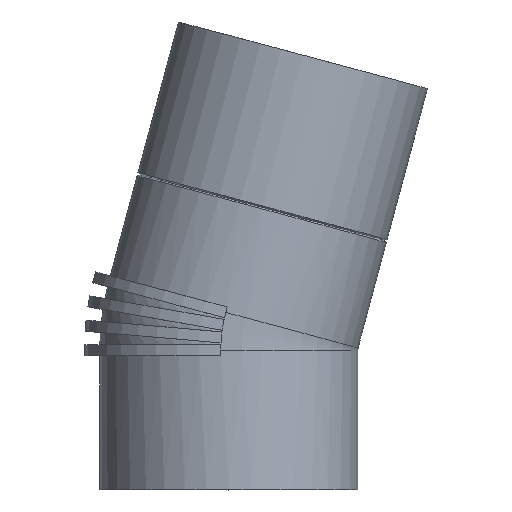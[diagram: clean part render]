
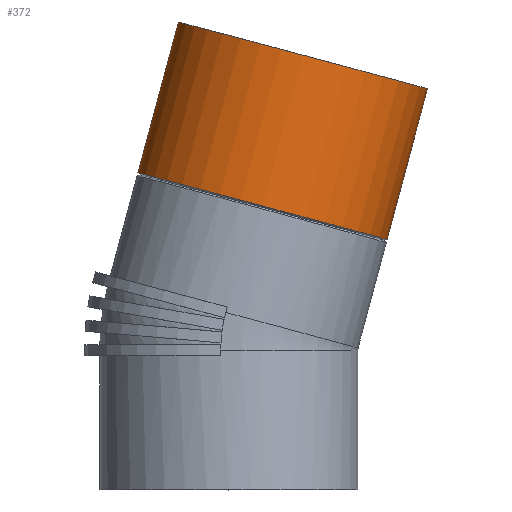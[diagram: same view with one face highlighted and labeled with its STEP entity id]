
A CAD part, top view. The second image highlights one B-rep face of the part: STEP entity #372.
In plain terms, the highlighted cylindrical face has radius 45 mm (diameter 90 mm), a full revolution.
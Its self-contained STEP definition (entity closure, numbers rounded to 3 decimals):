
#60=CYLINDRICAL_SURFACE($,#419,45.);
#74=FACE_BOUND($,#132,.T.);
#96=FACE_OUTER_BOUND($,#131,.T.);
#131=EDGE_LOOP($,(#322));
#132=EDGE_LOOP($,(#323));
#134=CIRCLE($,#378,45.);
#153=CIRCLE($,#418,45.);
#155=VERTEX_POINT($,#518);
#188=VERTEX_POINT($,#851);
#190=EDGE_CURVE($,#155,#155,#134,.T.);
#233=EDGE_CURVE($,#188,#188,#153,.T.);
#322=ORIENTED_EDGE($,*,*,#190,.T.);
#323=ORIENTED_EDGE($,*,*,#233,.T.);
#372=ADVANCED_FACE($,(#96,#74),#60,.T.);
#378=AXIS2_PLACEMENT_3D($,#519,#426,#427);
#418=AXIS2_PLACEMENT_3D($,#852,#510,#511);
#419=AXIS2_PLACEMENT_3D($,#853,#512,#513);
#426=DIRECTION('center_axis',(0.259,0.966,0.));
#427=DIRECTION('ref_axis',(0.966,-0.259,0.));
#510=DIRECTION('center_axis',(-0.259,-0.966,0.));
#511=DIRECTION('ref_axis',(0.966,-0.259,0.));
#512=DIRECTION('center_axis',(-0.259,-0.966,0.));
#513=DIRECTION('ref_axis',(0.966,-0.259,0.));
#518=CARTESIAN_POINT('',(55.248,87.322,0.));
#519=CARTESIAN_POINT('Origin',(11.781,98.969,0.));
#851=CARTESIAN_POINT('',(69.349,139.946,0.));
#852=CARTESIAN_POINT('Origin',(25.882,151.593,0.));
#853=CARTESIAN_POINT('Origin',(13.759,106.348,0.));
